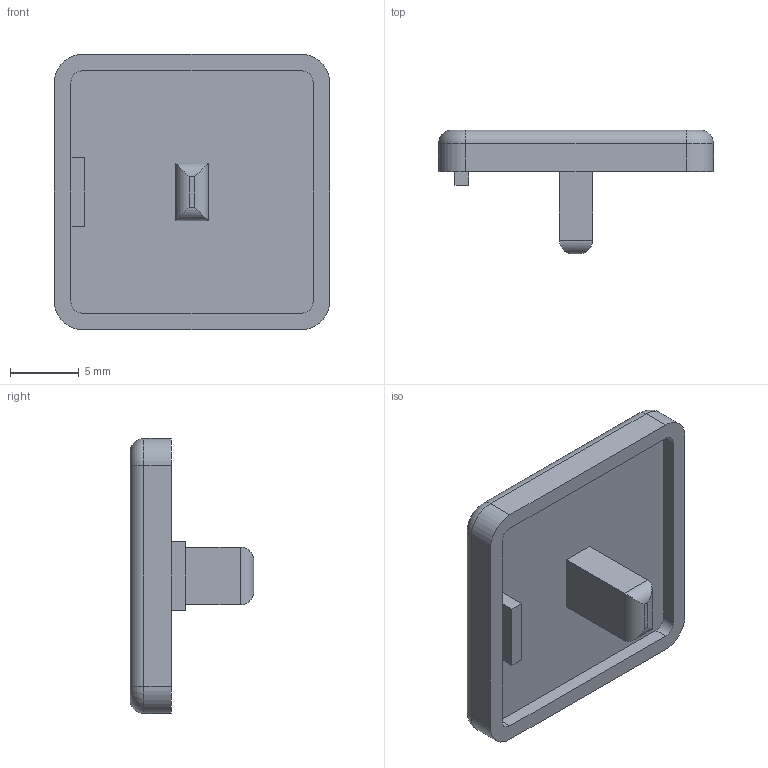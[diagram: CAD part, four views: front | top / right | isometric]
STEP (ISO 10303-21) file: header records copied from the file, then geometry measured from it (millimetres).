
FILE_DESCRIPTION (( 'STEP AP214' ), '1' );
FILE_NAME ('J2C2.step', '2017-05-24T07:36:26', ( 'admin' ), ( '' ), 'SwSTEP 2.0', 'SolidWorks 2014', '' );
FILE_SCHEMA (( 'AUTOMOTIVE_DESIGN' ));
Length unit declared in the file: millimetre
Products named in the file (1): J2C2
Bounding box: 20 x 9 x 20 mm (x, y, z)
Volume: 942.5 mm3; surface area: 1158.7 mm2
Topology: 1 solids, 1 shells, 42 faces, 100 edges, 62 vertices
Faces by surface type: plane 22, cylinder 16, torus 4
Entity records: 1234 total; most frequent: CARTESIAN_POINT 217, DIRECTION 210, ORIENTED_EDGE 200, EDGE_CURVE 100, AXIS2_PLACEMENT_3D 71, VECTOR 68, LINE 68, VERTEX_POINT 62
